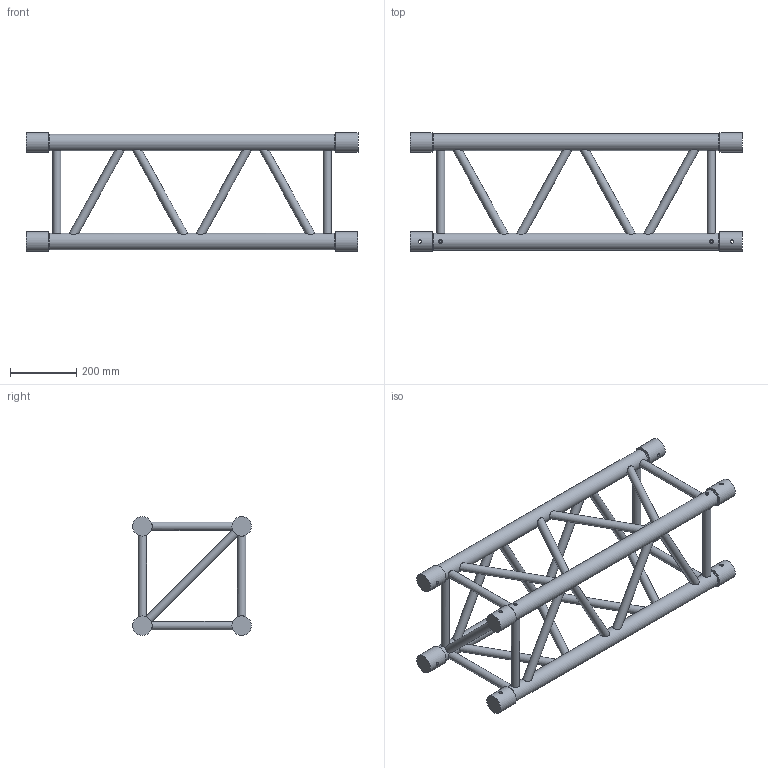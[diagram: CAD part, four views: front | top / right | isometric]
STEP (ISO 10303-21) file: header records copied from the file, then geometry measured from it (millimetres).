
FILE_DESCRIPTION(/* description */ (''),/* implementation_level */ '2;1');
FILE_NAME(/* name */ 'C:\Users\marius.carstoveanu\Desktop\111110061.stp',/* time_stamp */ '2015-09-07T07:46:40+03:00',/* author */ ('marius.carstoveanu'),/* organization */ (''),/* preprocessor_version */ 'ST-DEVELOPER v15.6',/* originating_system */ 'Autodesk Inventor 2015',/* authorisation */ '');
FILE_SCHEMA (('AUTOMOTIVE_DESIGN { 1 0 10303 214 3 1 1 }'));
Length unit declared in the file: millimetre
Products named in the file (1): 260026947
Bounding box: 1000 x 357.8 x 357.8 mm (x, y, z)
Volume: 7757357.4 mm3; surface area: 1837992.3 mm2
Topology: 5 solids, 7 shells, 367 faces, 831 edges, 532 vertices
Faces by surface type: plane 192, cylinder 151, cone 24
Full cylindrical faces by diameter (mm): 10 x8, 10.2 x24, 25 x26, 41.4 x8, 42 x4, 50 x4, 58.8 x8
Entity records: 13730 total; most frequent: CARTESIAN_POINT 5678, DIRECTION 1571, ORIENTED_EDGE 1388, AXIS2_PLACEMENT_3D 719, EDGE_CURVE 667, EDGE_LOOP 608, VERTEX_POINT 478, STYLED_ITEM 347
